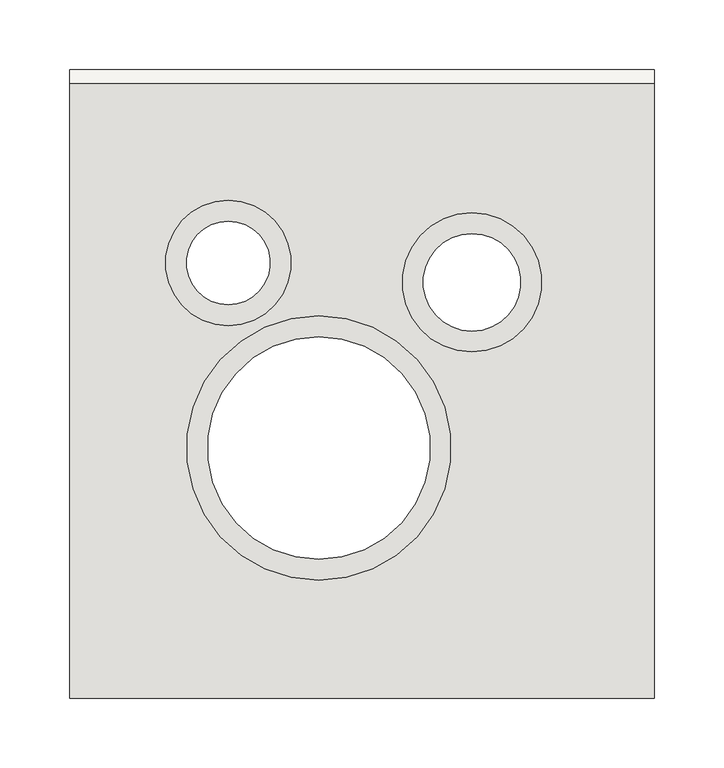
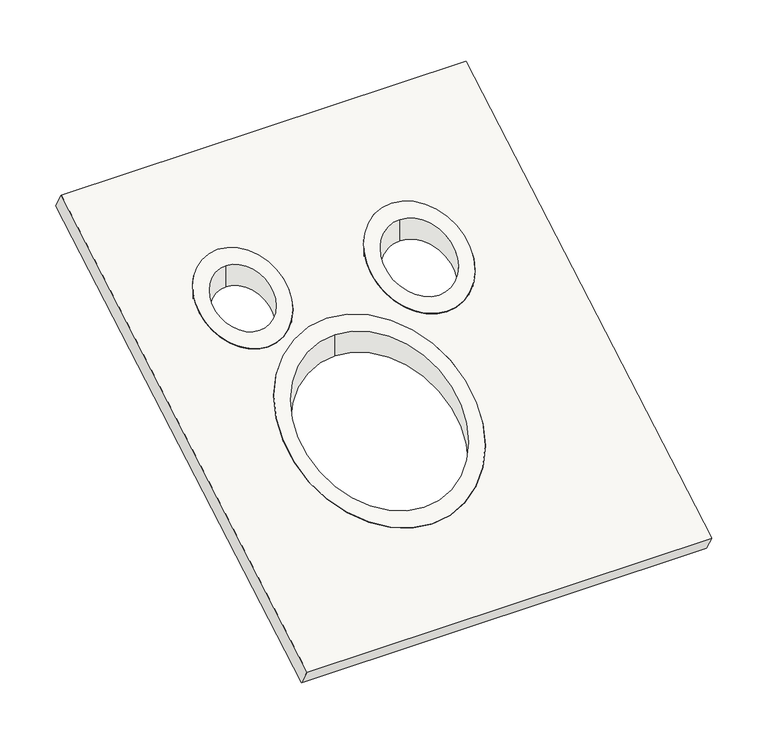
"""IFC4 building model written with IfcOpenShell, lengths in millimetres: covering geometry, RSen_GM_WPB_Mini Delta _roofboard_M&G : roofboard Mini-Delta."""

from ifc_helpers import new_model, si_unit, frame, origin, place, context, project, spatial, polyline, ellipse_curve, source, transform, mapped, element, save
from ifc_brep_helpers import plane_surface, cylinder_surface, revolved_surface, advanced_brep


def covering_72d96641(model_context):
    return source(origin(), model_context, "Body", "AdvancedBrep", [
        advanced_brep(
        [(-31.0, 39.0, -0.5773503), (-31.0, -121.0, -92.9533933), (-31.0, -121.0, -69.8593826), (-31.0, 39.0, 22.5166605), (-31.0, -136.0, -101.6136474), (-31.0, 54.0, 8.0829038), (-31.0, 54.0, 31.1769145), (-31.0, -136.0, -78.5196366)],
        [
            (0, 1, ellipse_curve(frame((-31.0, -41.0, -46.7653718), z_axis=(0.0, 0.4999999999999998, -0.8660254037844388), x_axis=(0.0, -0.866025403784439, -0.49999999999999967)), 92.3760431, 80.0)),
            (1, 2),
            (2, 3, ellipse_curve(frame((-31.0, -41.0, -23.671361), z_axis=(0.0, -0.4999999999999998, 0.8660254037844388), x_axis=(0.0, -0.866025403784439, -0.49999999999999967)), 92.3760431, 80.0)),
            (3, 0),
            (1, 0, ellipse_curve(frame((-31.0, -41.0, -46.7653718), z_axis=(0.0, 0.4999999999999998, -0.8660254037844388), x_axis=(0.0, -0.866025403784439, -0.49999999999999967)), 92.3760431, 80.0)),
            (3, 2, ellipse_curve(frame((-31.0, -41.0, -23.671361), z_axis=(0.0, -0.4999999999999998, 0.8660254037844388), x_axis=(0.0, -0.866025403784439, -0.49999999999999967)), 92.3760431, 80.0)),
            (4, 5, ellipse_curve(frame((-31.0, -41.0, -46.7653718), z_axis=(0.0, -0.4999999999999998, 0.8660254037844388), x_axis=(0.0, 0.866025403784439, 0.49999999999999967)), 109.6965511, 95.0)),
            (5, 6),
            (6, 7, ellipse_curve(frame((-31.0, -41.0, -23.671361), z_axis=(0.0, 0.4999999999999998, -0.8660254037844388), x_axis=(0.0, 0.866025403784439, 0.49999999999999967)), 109.6965511, 95.0)),
            (7, 4),
            (5, 4, ellipse_curve(frame((-31.0, -41.0, -46.7653718), z_axis=(0.0, -0.4999999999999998, 0.8660254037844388), x_axis=(0.0, 0.866025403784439, 0.49999999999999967)), 109.6965511, 95.0)),
            (7, 6, ellipse_curve(frame((-31.0, -41.0, -23.671361), z_axis=(0.0, 0.4999999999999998, -0.8660254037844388), x_axis=(0.0, 0.866025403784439, 0.49999999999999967)), 109.6965511, 95.0)),
        ],
        [
            revolved_surface(polyline([(-31.0, 39.0, -92.95339334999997), (-31.0, 39.0, 22.516660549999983)]), (-31.0, -41.0, -200.0), (0.0, 0.0, -1.0)),
            cylinder_surface(frame((-31.0, -41.0, 0.0), z_axis=(0.0, 0.0, 1.0), x_axis=(0.0, 1.0, 0.0)), 95.0),
            plane_surface(frame((210.0, -210.836478, -144.8205081), z_axis=(0.0, 0.4999999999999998, -0.8660254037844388), x_axis=(0.0, 0.8660254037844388, 0.4999999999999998))),
            plane_surface(frame((210.0, -220.836478, -127.5), z_axis=(0.0, -0.4999999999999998, 0.8660254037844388), x_axis=(0.0, -0.8660254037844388, -0.4999999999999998))),
        ],
        [
            (0, [[1, 2, 3, 4]]),
            (0, [[5, -4, 6, -2]]),
            (1, [[7, 8, 9, 10]]),
            (1, [[11, -10, 12, -8]]),
            (2, [[-7, -11], [-1, -5]]),
            (3, [[-9, -12], [-3, -6]]),
        ],
    ),
        advanced_brep(
        [(-96.0, 122.0, 47.3427221), (-96.0, 62.0, 12.7017059), (-96.0, 62.0, 35.7957167), (-96.0, 122.0, 70.4367328), (-96.0, 47.0, 4.0414519), (-96.0, 137.0, 56.0029761), (-96.0, 137.0, 79.0969869), (-96.0, 47.0, 27.1354627)],
        [
            (0, 1, ellipse_curve(frame((-96.0, 92.0, 30.022214), z_axis=(0.0, 0.4999999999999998, -0.8660254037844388), x_axis=(0.0, -0.866025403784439, -0.49999999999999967)), 34.6410162, 30.0)),
            (1, 2),
            (2, 3, ellipse_curve(frame((-96.0, 92.0, 53.1162248), z_axis=(0.0, -0.4999999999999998, 0.8660254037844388), x_axis=(0.0, -0.866025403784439, -0.49999999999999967)), 34.6410162, 30.0)),
            (3, 0),
            (1, 0, ellipse_curve(frame((-96.0, 92.0, 30.022214), z_axis=(0.0, 0.4999999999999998, -0.8660254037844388), x_axis=(0.0, -0.866025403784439, -0.49999999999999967)), 34.6410162, 30.0)),
            (3, 2, ellipse_curve(frame((-96.0, 92.0, 53.1162248), z_axis=(0.0, -0.4999999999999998, 0.8660254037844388), x_axis=(0.0, -0.866025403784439, -0.49999999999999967)), 34.6410162, 30.0)),
            (4, 5, ellipse_curve(frame((-96.0, 92.0, 30.022214), z_axis=(0.0, -0.4999999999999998, 0.8660254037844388), x_axis=(0.0, 0.866025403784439, 0.49999999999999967)), 51.9615242, 45.0)),
            (5, 6),
            (6, 7, ellipse_curve(frame((-96.0, 92.0, 53.1162248), z_axis=(0.0, 0.4999999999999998, -0.8660254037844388), x_axis=(0.0, 0.866025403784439, 0.49999999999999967)), 51.9615242, 45.0)),
            (7, 4),
            (5, 4, ellipse_curve(frame((-96.0, 92.0, 30.022214), z_axis=(0.0, -0.4999999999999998, 0.8660254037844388), x_axis=(0.0, 0.866025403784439, 0.49999999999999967)), 51.9615242, 45.0)),
            (7, 6, ellipse_curve(frame((-96.0, 92.0, 53.1162248), z_axis=(0.0, 0.4999999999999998, -0.8660254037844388), x_axis=(0.0, 0.866025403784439, 0.49999999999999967)), 51.9615242, 45.0)),
        ],
        [
            revolved_surface(polyline([(-96.0, 122.0, 12.701705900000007), (-96.0, 122.0, 70.43673289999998)]), (-96.0, 92.0, -200.0), (0.0, 0.0, -1.0)),
            cylinder_surface(frame((-96.0, 92.0, 0.0), z_axis=(0.0, 0.0, 1.0), x_axis=(0.0, 1.0, 0.0)), 45.0),
            plane_surface(frame((210.0, -210.836478, -144.8205081), z_axis=(0.0, 0.4999999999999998, -0.8660254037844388), x_axis=(0.0, 0.8660254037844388, 0.4999999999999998))),
            plane_surface(frame((210.0, -220.836478, -127.5), z_axis=(0.0, -0.4999999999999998, 0.8660254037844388), x_axis=(0.0, -0.8660254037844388, -0.4999999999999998))),
        ],
        [
            (0, [[1, 2, 3, 4]]),
            (0, [[5, -4, 6, -2]]),
            (1, [[7, 8, 9, 10]]),
            (1, [[11, -10, 12, -8]]),
            (2, [[-7, -11], [-1, -5]]),
            (3, [[-9, -12], [-3, -6]]),
        ],
    ),
        advanced_brep(
        [(79.0, 43.0, 24.8260616), (79.0, 113.0, 65.2405804), (79.0, 113.0, 42.1465697), (79.0, 43.0, 1.7320508), (79.0, 128.0, 73.9008345), (79.0, 28.0, 16.1658075), (79.0, 28.0, -6.9282032), (79.0, 128.0, 50.8068237)],
        [
            (0, 1, ellipse_curve(frame((79.0, 78.0, 45.033321), z_axis=(0.0, -0.4999999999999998, 0.8660254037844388), x_axis=(0.0, -0.866025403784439, -0.49999999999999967)), 40.4145188, 35.0)),
            (1, 2),
            (2, 3, ellipse_curve(frame((79.0, 78.0, 21.9393102), z_axis=(0.0, 0.4999999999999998, -0.8660254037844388), x_axis=(0.0, -0.866025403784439, -0.49999999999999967)), 40.4145188, 35.0)),
            (3, 0),
            (1, 0, ellipse_curve(frame((79.0, 78.0, 45.033321), z_axis=(0.0, -0.4999999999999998, 0.8660254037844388), x_axis=(0.0, -0.866025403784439, -0.49999999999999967)), 40.4145188, 35.0)),
            (3, 2, ellipse_curve(frame((79.0, 78.0, 21.9393102), z_axis=(0.0, 0.4999999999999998, -0.8660254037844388), x_axis=(0.0, -0.866025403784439, -0.49999999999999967)), 40.4145188, 35.0)),
            (4, 5, ellipse_curve(frame((79.0, 78.0, 45.033321), z_axis=(0.0, 0.4999999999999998, -0.8660254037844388), x_axis=(0.0, 0.866025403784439, 0.49999999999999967)), 57.7350269, 50.0)),
            (5, 6),
            (6, 7, ellipse_curve(frame((79.0, 78.0, 21.9393102), z_axis=(0.0, -0.4999999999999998, 0.8660254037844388), x_axis=(0.0, 0.866025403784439, 0.49999999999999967)), 57.7350269, 50.0)),
            (7, 4),
            (5, 4, ellipse_curve(frame((79.0, 78.0, 45.033321), z_axis=(0.0, 0.4999999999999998, -0.8660254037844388), x_axis=(0.0, 0.866025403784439, 0.49999999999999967)), 57.7350269, 50.0)),
            (7, 6, ellipse_curve(frame((79.0, 78.0, 21.9393102), z_axis=(0.0, -0.4999999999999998, 0.8660254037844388), x_axis=(0.0, 0.866025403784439, 0.49999999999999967)), 57.7350269, 50.0)),
        ],
        [
            revolved_surface(polyline([(79.0, 113.0, 1.7320507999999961), (79.0, 113.0, 65.2405804)]), (79.0, 78.0, -200.0), (0.0, 0.0, -1.0)),
            cylinder_surface(frame((79.0, 78.0, 0.0), z_axis=(0.0, 0.0, 1.0), x_axis=(0.0, 1.0, 0.0)), 50.0),
            plane_surface(frame((210.0, -220.836478, -127.5), z_axis=(0.0, -0.4999999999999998, 0.8660254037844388), x_axis=(0.0, -0.8660254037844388, -0.4999999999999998))),
            plane_surface(frame((210.0, -210.836478, -144.8205081), z_axis=(0.0, 0.4999999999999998, -0.8660254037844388), x_axis=(0.0, 0.8660254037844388, 0.4999999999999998))),
        ],
        [
            (0, [[1, 2, 3, 4]]),
            (0, [[5, -4, 6, -2]]),
            (1, [[7, 8, 9, 10]]),
            (1, [[11, -10, 12, -8]]),
            (2, [[-7, -11], [-1, -5]]),
            (3, [[-9, -12], [-3, -6]]),
        ],
    ),
        advanced_brep(
        [(210.0, -210.836478, -144.8205081), (-210.0, -210.836478, -144.8205081), (-210.0, 230.836478, 110.1794919), (210.0, 230.836478, 110.1794919), (-31.0, -136.0, -101.6136474), (-31.0, 54.0, 8.0829038), (79.0, 28.0, -6.9282032), (79.0, 128.0, 50.8068237), (-96.0, 47.0, 4.0414519), (-96.0, 137.0, 56.0029761), (210.0, -220.836478, -127.5), (210.0, 220.836478, 127.5), (-210.0, 220.836478, 127.5), (-210.0, -220.836478, -127.5), (-31.0, 54.0, 31.1769145), (-31.0, -136.0, -78.5196366), (79.0, 128.0, 73.9008345), (79.0, 28.0, 16.1658075), (-96.0, 137.0, 79.0969869), (-96.0, 47.0, 27.1354627)],
        [
            (0, 1),
            (1, 2),
            (2, 3),
            (3, 0),
            (4, 5, ellipse_curve(frame((-31.0, -41.0, -46.7653718), z_axis=(0.0, -0.4999999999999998, 0.8660254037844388), x_axis=(0.0, 0.866025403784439, 0.49999999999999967)), 109.6965511, 95.0)),
            (5, 4, ellipse_curve(frame((-31.0, -41.0, -46.7653718), z_axis=(0.0, -0.4999999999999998, 0.8660254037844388), x_axis=(0.0, 0.866025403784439, 0.49999999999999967)), 109.6965511, 95.0)),
            (6, 7, ellipse_curve(frame((79.0, 78.0, 21.9393102), z_axis=(0.0, -0.4999999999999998, 0.8660254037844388), x_axis=(0.0, 0.866025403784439, 0.49999999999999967)), 57.7350269, 50.0)),
            (7, 6, ellipse_curve(frame((79.0, 78.0, 21.9393102), z_axis=(0.0, -0.4999999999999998, 0.8660254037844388), x_axis=(0.0, 0.866025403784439, 0.49999999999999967)), 57.7350269, 50.0)),
            (8, 9, ellipse_curve(frame((-96.0, 92.0, 30.022214), z_axis=(0.0, -0.4999999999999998, 0.8660254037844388), x_axis=(0.0, 0.866025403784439, 0.49999999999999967)), 51.9615242, 45.0)),
            (9, 8, ellipse_curve(frame((-96.0, 92.0, 30.022214), z_axis=(0.0, -0.4999999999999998, 0.8660254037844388), x_axis=(0.0, 0.866025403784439, 0.49999999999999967)), 51.9615242, 45.0)),
            (10, 11),
            (11, 12),
            (12, 13),
            (13, 10),
            (14, 15, ellipse_curve(frame((-31.0, -41.0, -23.671361), z_axis=(0.0, 0.4999999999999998, -0.8660254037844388), x_axis=(0.0, 0.866025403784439, 0.49999999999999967)), 109.6965511, 95.0)),
            (15, 14, ellipse_curve(frame((-31.0, -41.0, -23.671361), z_axis=(0.0, 0.4999999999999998, -0.8660254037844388), x_axis=(0.0, 0.866025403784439, 0.49999999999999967)), 109.6965511, 95.0)),
            (16, 17, ellipse_curve(frame((79.0, 78.0, 45.033321), z_axis=(0.0, 0.4999999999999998, -0.8660254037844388), x_axis=(0.0, 0.866025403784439, 0.49999999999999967)), 57.7350269, 50.0)),
            (17, 16, ellipse_curve(frame((79.0, 78.0, 45.033321), z_axis=(0.0, 0.4999999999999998, -0.8660254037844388), x_axis=(0.0, 0.866025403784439, 0.49999999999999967)), 57.7350269, 50.0)),
            (18, 19, ellipse_curve(frame((-96.0, 92.0, 53.1162248), z_axis=(0.0, 0.4999999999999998, -0.8660254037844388), x_axis=(0.0, 0.866025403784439, 0.49999999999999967)), 51.9615242, 45.0)),
            (19, 18, ellipse_curve(frame((-96.0, 92.0, 53.1162248), z_axis=(0.0, 0.4999999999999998, -0.8660254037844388), x_axis=(0.0, 0.866025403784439, 0.49999999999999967)), 51.9615242, 45.0)),
            (3, 11),
            (10, 0),
            (2, 12),
            (1, 13),
            (4, 15),
            (14, 5),
            (8, 19),
            (18, 9),
            (6, 17),
            (16, 7),
        ],
        [
            plane_surface(frame((210.0, -210.836478, -144.8205081), z_axis=(0.0, 0.4999999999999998, -0.8660254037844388), x_axis=(0.0, -0.8660254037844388, -0.4999999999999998))),
            plane_surface(frame((210.0, -220.836478, -127.5), z_axis=(0.0, -0.4999999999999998, 0.8660254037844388), x_axis=(0.0, 0.8660254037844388, 0.4999999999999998))),
            plane_surface(frame((210.0, -220.836478, -127.5), z_axis=(1.0, 0.0, 0.0), x_axis=(0.0, 0.5000000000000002, -0.8660254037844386))),
            plane_surface(frame((210.0, 220.836478, 127.5), z_axis=(0.0, 0.8660254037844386, 0.5000000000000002), x_axis=(0.0, 0.5000000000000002, -0.8660254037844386))),
            plane_surface(frame((-210.0, 220.836478, 127.5), z_axis=(-1.0, 0.0, 0.0), x_axis=(0.0, 0.5000000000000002, -0.8660254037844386))),
            plane_surface(frame((-210.0, -220.836478, -127.5), z_axis=(0.0, -0.8660254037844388, -0.49999999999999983), x_axis=(0.0, 0.49999999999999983, -0.8660254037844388))),
            revolved_surface(polyline([(-31.0, 54.0, 31.176914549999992), (-31.0, 54.0, -101.61364739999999)]), (-31.0, -41.0, -350.0), (0.0, 0.0, 1.0)),
            revolved_surface(polyline([(-96.0, 137.0, 79.09698689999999), (-96.0, 137.0, 4.041451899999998)]), (-96.0, 92.0, -200.0), (0.0, 0.0, 1.0)),
            revolved_surface(polyline([(79.0, 128.0, 73.90083449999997), (79.0, 128.0, -6.928203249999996)]), (79.0, 78.0, -200.0), (0.0, 0.0, 1.0)),
        ],
        [
            (0, [[1, 2, 3, 4], [5, 6], [7, 8], [9, 10]]),
            (1, [[11, 12, 13, 14], [15, 16], [17, 18], [19, 20]]),
            (2, [[-4, 21, -11, 22]]),
            (3, [[-3, 23, -12, -21]]),
            (4, [[-2, 24, -13, -23]]),
            (5, [[-1, -22, -14, -24]]),
            (6, [[25, -15, 26, -5]]),
            (6, [[-25, -6, -26, -16]]),
            (7, [[27, -19, 28, -9]]),
            (7, [[-27, -10, -28, -20]]),
            (8, [[29, -17, 30, -7]]),
            (8, [[-29, -8, -30, -18]]),
        ],
    ),
    ])


if __name__ == "__main__":
    model = new_model("IFC4")
    model_context = context("Model", 3, world=origin())
    ifc_project = project(units=[si_unit("LENGTHUNIT", "METRE", prefix="MILLI")], contexts=[model_context])
    site = spatial("IfcSite", under=ifc_project)
    building = spatial("IfcBuilding", under=site)
    placement = place(None, origin())
    covering_shape = covering_72d96641(model_context)
    element("IfcCovering", 1, ObjectType="RSen_GM_WPB_Mini Delta _roofboard_M&G : roofboard Mini-Delta", at=placement, inside=building, context=model_context, shape_type="MappedRepresentation", body=[
        mapped(covering_shape, transform((0.0, 0.0, 0.0), x_axis=(1.0, 0.0, 0.0), y_axis=(0.0, 1.0, 0.0), z_axis=(0.0, 0.0, 1.0))),
    ])
    save(model, "model.ifc")
